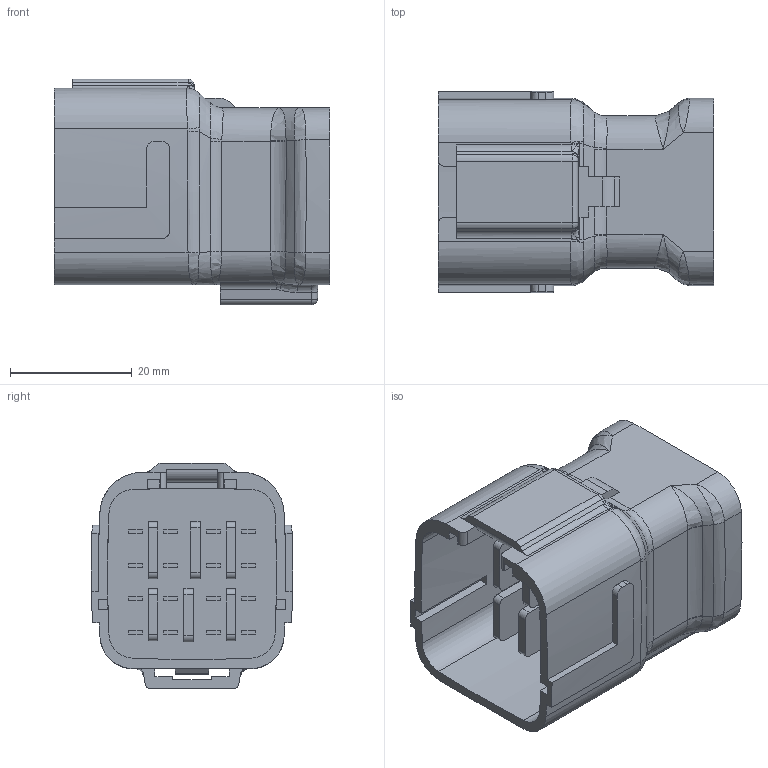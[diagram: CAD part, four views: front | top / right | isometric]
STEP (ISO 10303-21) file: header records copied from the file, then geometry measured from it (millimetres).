
FILE_DESCRIPTION(('CATIA V5 STEP Exchange','CAx-IF Rec.Pracs.--- Model Styling and Organization---1.2---2011-12-15'),'2;1');
FILE_NAME('N:\C-DAM_MyDesk\ENV\900093\6188-0495.stp','2015-06-23T08:15:42+00:00',('none'),('none'),'CATIA Version 5-6 Release 2012 SP4 HF74','CATIA V5 STEP AP214','none');
FILE_SCHEMA(('AUTOMOTIVE_DESIGN { 1 0 10303 214 1 1 1 1 }'));
Length unit declared in the file: millimetre
Products named in the file (1): 6188-0495
Bounding box: 45.3 x 33.1 x 37.1 mm (x, y, z)
Volume: 23828.7 mm3; surface area: 12370 mm2
Topology: 1 solids, 1 shells, 391 faces, 994 edges, 626 vertices
Faces by surface type: plane 206, cylinder 105, bspline 74, torus 4, sphere 2
Entity records: 15913 total; most frequent: CARTESIAN_POINT 7640, ORIENTED_EDGE 1960, DIRECTION 1187, EDGE_CURVE 980, VERTEX_POINT 626, VECTOR 586, LINE 586, EDGE_LOOP 430
